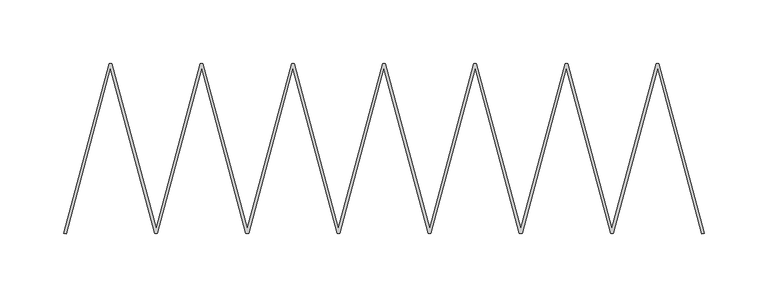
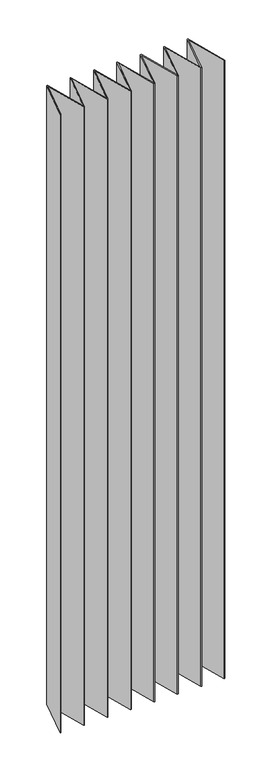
"""IFC4 building model written with IfcOpenShell, lengths in millimetres: furniture geometry, BHMS-Bed Curtains : Bed Curtains."""

from ifc_helpers import new_model, si_unit, frame, origin, place, context, project, spatial, polyline, outline, extrude, source, transform, mapped, element, save


def furniture_56c737e7(model_context):
    return source(origin(), model_context, "Body", "SweptSolid", [
        extrude(outline(polyline([(-217.8561769, 73.7973328), (-215.7856245, 73.7973328), (-180.9578818, -56.1815725), (-146.1301391, 73.7973328), (-144.0595867, 73.7973328), (-109.231844, -56.1815725), (-74.4041013, 73.7973328), (-72.333549, 73.7973328), (-37.5058062, -56.1815725), (-2.6780635, 73.7973328), (-0.6075112, 73.7973328), (34.2202315, -56.1815725), (69.0479742, 73.7973328), (71.1185266, 73.7973328), (105.9462693, -56.1815725), (140.774012, 73.7973328), (142.8445644, 73.7973328), (177.6723071, -56.1815725), (212.5000498, 73.7973328), (214.5706021, 73.7973328), (250.433621, -60.0452758), (248.5017694, -60.5629139), (213.535326, 69.9336295), (178.7075833, -60.0452758), (176.6370309, -60.0452758), (141.8092882, 69.9336295), (106.9815455, -60.0452758), (104.9109931, -60.0452758), (70.0832504, 69.9336295), (35.2555077, -60.0452758), (33.1849553, -60.0452758), (-1.6427874, 69.9336295), (-36.4705301, -60.0452758), (-38.5410824, -60.0452758), (-73.3688251, 69.9336295), (-108.1965678, -60.0452758), (-110.2671202, -60.0452758), (-145.0948629, 69.9336295), (-179.9226056, -60.0452758), (-181.993158, -60.0452758), (-216.8209007, 69.9336295), (-251.7873441, -60.5629139), (-253.7191957, -60.0452758), (-217.8561769, 73.7973328)])), frame((0.0, 0.0, 100.0), z_axis=(0.0, 0.0, 1.0), x_axis=(1.0, 0.0, 0.0)), (0.0, 0.0, 1.0), 2000.0),
    ])


if __name__ == "__main__":
    model = new_model("IFC4")
    model_context = context("Model", 3, world=origin())
    ifc_project = project(units=[si_unit("LENGTHUNIT", "METRE", prefix="MILLI")], contexts=[model_context])
    site = spatial("IfcSite", under=ifc_project)
    building = spatial("IfcBuilding", under=site)
    placement = place(None, origin())
    furniture_shape = furniture_56c737e7(model_context)
    element("IfcFurniture", 1, ObjectType="BHMS-Bed Curtains : Bed Curtains", at=placement, inside=building, context=model_context, shape_type="MappedRepresentation", body=[
        mapped(furniture_shape, transform((0.0, 0.0, 0.0), x_axis=(1.0, 0.0, 0.0), y_axis=(0.0, 1.0, 0.0), z_axis=(0.0, 0.0, 1.0))),
    ])
    save(model, "model.ifc")
